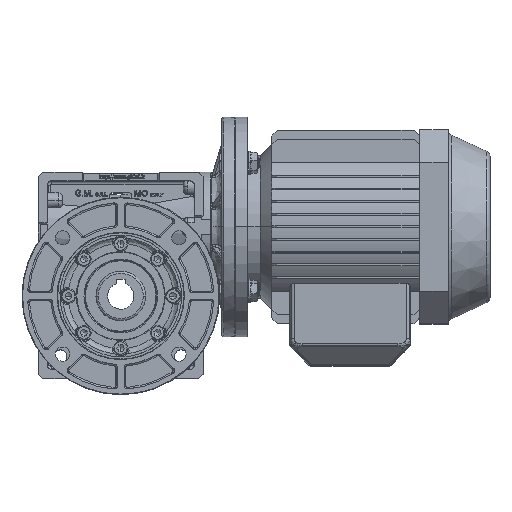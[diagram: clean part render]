
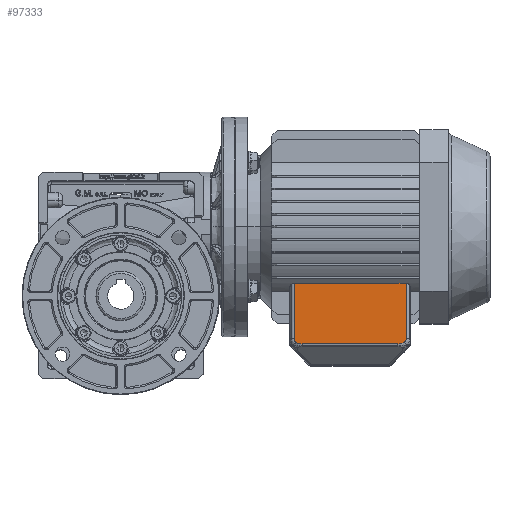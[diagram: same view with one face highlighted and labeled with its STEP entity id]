
A CAD part, top view. The second image highlights one B-rep face of the part: STEP entity #97333.
In plain terms, the highlighted planar face has unit normal (0, 0, 1) as drawn and (0, 1, 0) by its records, which use the part's own axes.
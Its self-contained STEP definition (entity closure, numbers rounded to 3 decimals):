
#88210=CARTESIAN_POINT('',(103.5,55.,102.048));
#88211=VERTEX_POINT('',#88210);
#88219=CARTESIAN_POINT('',(103.5,55.,51.321));
#88220=VERTEX_POINT('',#88219);
#88221=CARTESIAN_POINT('',(103.5,55.,102.048));
#88222=DIRECTION('',(0.0,0.0,-1.0));
#88223=VECTOR('',#88222,50.728);
#88224=LINE('',#88221,#88223);
#88225=EDGE_CURVE('',#88211,#88220,#88224,.T.);
#89838=CARTESIAN_POINT('',(205.5,55.0,102.048));
#89839=VERTEX_POINT('',#89838);
#89847=CARTESIAN_POINT('',(203.663,55.0,105.293));
#89848=VERTEX_POINT('',#89847);
#89849=CARTESIAN_POINT('',(205.5,55.0,102.048));
#89850=CARTESIAN_POINT('',(205.5,55.0,106.374));
#89851=CARTESIAN_POINT('',(198.153,55.0,106.374));
#89852=QUASI_UNIFORM_CURVE('',2,(#89849,#89850,#89851),.UNSPECIFIED.,.F.,.U.);
#89853=EDGE_CURVE('',#89839,#89848,#89852,.T.);
#89995=CARTESIAN_POINT('',(198.153,55.0,106.374));
#89996=VERTEX_POINT('',#89995);
#89997=CARTESIAN_POINT('',(205.5,55.0,102.048));
#89998=CARTESIAN_POINT('',(205.5,55.0,106.374));
#89999=CARTESIAN_POINT('',(198.153,55.0,106.374));
#90000=QUASI_UNIFORM_CURVE('',2,(#89997,#89998,#89999),.UNSPECIFIED.,.F.,.U.);
#90001=EDGE_CURVE('',#89848,#89996,#90000,.T.);
#91205=CARTESIAN_POINT('',(110.847,55.,106.374));
#91206=VERTEX_POINT('',#91205);
#91214=CARTESIAN_POINT('',(105.337,55.,105.293));
#91215=VERTEX_POINT('',#91214);
#91216=CARTESIAN_POINT('',(110.847,55.,106.374));
#91217=CARTESIAN_POINT('',(103.5,55.,106.374));
#91218=CARTESIAN_POINT('',(103.5,55.,102.048));
#91219=QUASI_UNIFORM_CURVE('',2,(#91216,#91217,#91218),.UNSPECIFIED.,.F.,.U.);
#91220=EDGE_CURVE('',#91206,#91215,#91219,.T.);
#91362=CARTESIAN_POINT('',(110.847,55.,106.374));
#91363=CARTESIAN_POINT('',(103.5,55.,106.374));
#91364=CARTESIAN_POINT('',(103.5,55.,102.048));
#91365=QUASI_UNIFORM_CURVE('',2,(#91362,#91363,#91364),.UNSPECIFIED.,.F.,.U.);
#91366=EDGE_CURVE('',#91215,#88211,#91365,.T.);
#96704=CARTESIAN_POINT('',(205.5,55.,51.321));
#96705=VERTEX_POINT('',#96704);
#96720=CARTESIAN_POINT('',(205.5,55.,51.321));
#96721=DIRECTION('',(0.0,0.0,1.0));
#96722=VECTOR('',#96721,50.728);
#96723=LINE('',#96720,#96722);
#96724=EDGE_CURVE('',#96705,#89839,#96723,.T.);
#96743=CARTESIAN_POINT('',(198.153,55.0,106.374));
#96744=DIRECTION('',(-1.0,0.0,0.0));
#96745=VECTOR('',#96744,87.306);
#96746=LINE('',#96743,#96745);
#96747=EDGE_CURVE('',#89996,#91206,#96746,.T.);
#97313=CARTESIAN_POINT('',(209.5,55.0,127.));
#97314=DIRECTION('',(0.0,1.0,0.0));
#97315=DIRECTION('',(0.0,0.0,1.0));
#97316=AXIS2_PLACEMENT_3D('',#97313,#97314,#97315);
#97317=PLANE('',#97316);
#97318=ORIENTED_EDGE('',*,*,#88225,.F.);
#97319=ORIENTED_EDGE('',*,*,#91366,.F.);
#97320=ORIENTED_EDGE('',*,*,#91220,.F.);
#97321=ORIENTED_EDGE('',*,*,#96747,.F.);
#97322=ORIENTED_EDGE('',*,*,#90001,.F.);
#97323=ORIENTED_EDGE('',*,*,#89853,.F.);
#97324=ORIENTED_EDGE('',*,*,#96724,.F.);
#97325=CARTESIAN_POINT('',(103.5,55.,51.321));
#97326=DIRECTION('',(1.0,0.0,0.0));
#97327=VECTOR('',#97326,102.);
#97328=LINE('',#97325,#97327);
#97329=EDGE_CURVE('',#88220,#96705,#97328,.T.);
#97330=ORIENTED_EDGE('',*,*,#97329,.F.);
#97331=EDGE_LOOP('',(#97318,#97319,#97320,#97321,#97322,#97323,#97324,#97330));
#97332=FACE_OUTER_BOUND('',#97331,.T.);
#97333=ADVANCED_FACE('',(#97332),#97317,.T.);
